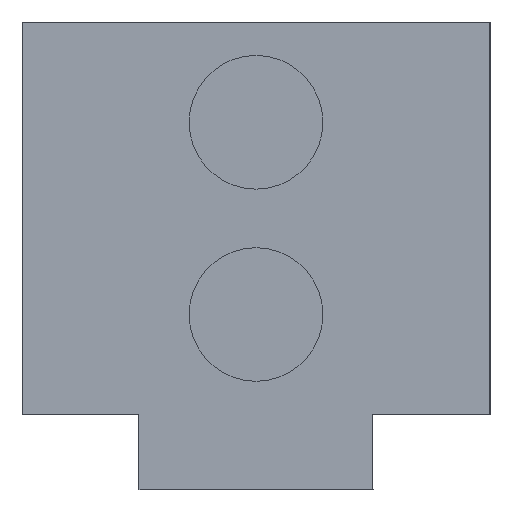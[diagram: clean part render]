
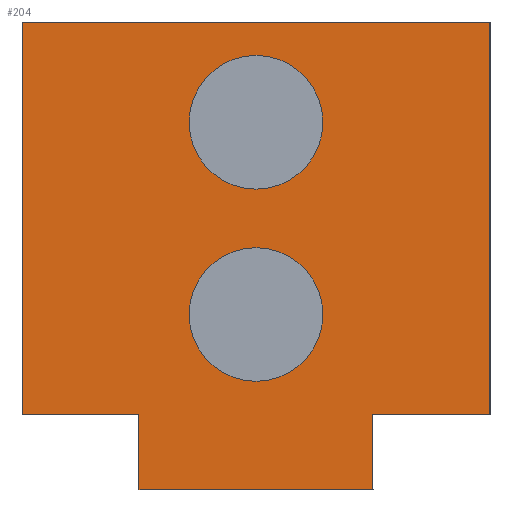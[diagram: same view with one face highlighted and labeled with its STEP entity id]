
A CAD part, left-side view. The second image highlights one B-rep face of the part: STEP entity #204.
In plain terms, the highlighted planar face has unit normal (-1, 0, 0).
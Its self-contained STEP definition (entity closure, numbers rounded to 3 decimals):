
#204=ADVANCED_FACE('',(#407),#408,.T.);
#407=FACE_OUTER_BOUND('',#606,.T.);
#408=PLANE('',#607);
#606=EDGE_LOOP('',(#1127,#1128,#1129,#1130,#1131,#1132,#1133,#1134));
#607=AXIS2_PLACEMENT_3D('',#1135,#1136,#1137);
#1127=ORIENTED_EDGE('',*,*,#1349,.T.);
#1128=ORIENTED_EDGE('',*,*,#1352,.T.);
#1129=ORIENTED_EDGE('',*,*,#1231,.F.);
#1130=ORIENTED_EDGE('',*,*,#1334,.T.);
#1131=ORIENTED_EDGE('',*,*,#1345,.T.);
#1132=ORIENTED_EDGE('',*,*,#1341,.T.);
#1133=ORIENTED_EDGE('',*,*,#1337,.T.);
#1134=ORIENTED_EDGE('',*,*,#1328,.T.);
#1135=CARTESIAN_POINT('',(0.0,0.,-5.));
#1136=DIRECTION('',(-1.0,0.0,0.));
#1137=DIRECTION('',(0.,0.0,1.0));
#1231=EDGE_CURVE('',#1483,#1485,#1486,.T.);
#1328=EDGE_CURVE('',#1624,#1622,#1625,.T.);
#1334=EDGE_CURVE('',#1483,#1632,#1634,.T.);
#1337=EDGE_CURVE('',#1638,#1624,#1639,.T.);
#1341=EDGE_CURVE('',#1644,#1638,#1645,.T.);
#1345=EDGE_CURVE('',#1632,#1644,#1649,.T.);
#1349=EDGE_CURVE('',#1622,#1653,#1655,.T.);
#1352=EDGE_CURVE('',#1653,#1485,#1658,.T.);
#1483=VERTEX_POINT('',#1826);
#1485=VERTEX_POINT('',#1829);
#1486=LINE('',#1830,#1831);
#1622=VERTEX_POINT('',#2008);
#1624=VERTEX_POINT('',#2011);
#1625=LINE('',#2012,#2013);
#1632=VERTEX_POINT('',#2023);
#1634=LINE('',#2026,#2027);
#1638=VERTEX_POINT('',#2032);
#1639=LINE('',#2033,#2034);
#1644=VERTEX_POINT('',#2041);
#1645=LINE('',#2042,#2043);
#1649=LINE('',#2049,#2050);
#1653=VERTEX_POINT('',#2055);
#1655=LINE('',#2058,#2059);
#1658=LINE('',#2063,#2064);
#1826=CARTESIAN_POINT('',(0.0,-7.,4.5));
#1829=CARTESIAN_POINT('',(0.0,-7.,0.));
#1830=CARTESIAN_POINT('',(0.0,-7.,-1.375));
#1831=VECTOR('',#2175,1.0);
#2008=CARTESIAN_POINT('',(0.0,7.,4.5));
#2011=CARTESIAN_POINT('',(0.0,14.,4.5));
#2012=CARTESIAN_POINT('',(0.0,-11.75,4.5));
#2013=VECTOR('',#2293,1.0);
#2023=CARTESIAN_POINT('',(0.0,-14.,4.5));
#2026=CARTESIAN_POINT('',(0.0,-11.75,4.5));
#2027=VECTOR('',#2298,1.0);
#2032=CARTESIAN_POINT('',(0.0,14.,28.));
#2033=CARTESIAN_POINT('',(0.0,14.,4.5));
#2034=VECTOR('',#2300,1.0);
#2041=CARTESIAN_POINT('',(0.0,-14.,28.));
#2042=CARTESIAN_POINT('',(0.0,11.75,28.));
#2043=VECTOR('',#2303,1.0);
#2049=CARTESIAN_POINT('',(0.0,-14.,32.5));
#2050=VECTOR('',#2306,1.0);
#2055=CARTESIAN_POINT('',(0.0,7.,0.));
#2058=CARTESIAN_POINT('',(0.0,7.,-1.375));
#2059=VECTOR('',#2309,1.0);
#2063=CARTESIAN_POINT('',(0.0,0.,0.));
#2064=VECTOR('',#2311,1.0);
#2175=DIRECTION('',(0.,0.0,-1.0));
#2293=DIRECTION('',(0.0,-1.0,0.0));
#2298=DIRECTION('',(0.0,-1.0,0.0));
#2300=DIRECTION('',(0.,0.0,-1.0));
#2303=DIRECTION('',(0.0,1.0,0.0));
#2306=DIRECTION('',(0.,0.0,1.0));
#2309=DIRECTION('',(0.,0.0,-1.0));
#2311=DIRECTION('',(0.0,-1.0,0.0));
